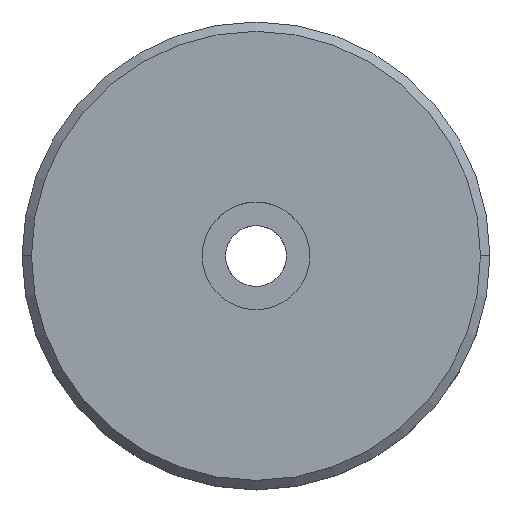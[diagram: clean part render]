
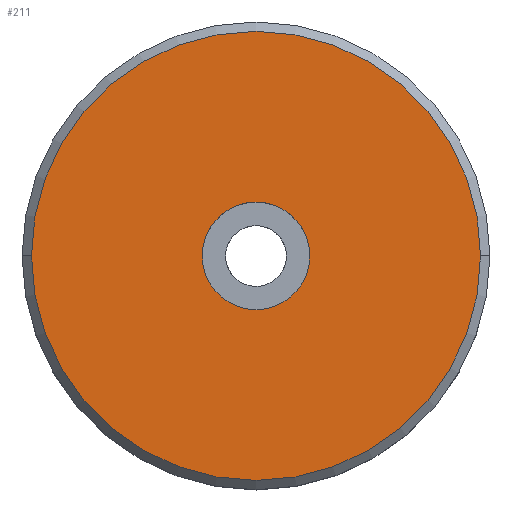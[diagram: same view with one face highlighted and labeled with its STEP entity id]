
A CAD part, top view. The second image highlights one B-rep face of the part: STEP entity #211.
In plain terms, the highlighted planar face has unit normal (0, 0, 1).
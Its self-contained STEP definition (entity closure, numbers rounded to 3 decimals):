
#63=CARTESIAN_POINT('Vertex',(-11.5,0.,30.)) ;
#77=CARTESIAN_POINT('Vertex',(11.5,0.,30.)) ;
#80=CARTESIAN_POINT('Axis2P3D Location',(0.,0.,30.)) ;
#102=CARTESIAN_POINT('Axis2P3D Location',(0.,0.,30.)) ;
#184=CARTESIAN_POINT('Axis2P3D Location',(0.,0.,30.)) ;
#189=CARTESIAN_POINT('Axis2P3D Location',(0.,0.,30.)) ;
#193=CARTESIAN_POINT('Vertex',(-48.,0.,30.)) ;
#195=CARTESIAN_POINT('Vertex',(48.,0.,30.)) ;
#198=CARTESIAN_POINT('Axis2P3D Location',(0.,0.,30.)) ;
#81=DIRECTION('Axis2P3D Direction',(0.,0.,1.)) ;
#103=DIRECTION('Axis2P3D Direction',(0.,0.,1.)) ;
#185=DIRECTION('Axis2P3D Direction',(0.,0.,1.)) ;
#186=DIRECTION('Axis2P3D XDirection',(1.,0.,0.)) ;
#190=DIRECTION('Axis2P3D Direction',(0.,0.,1.)) ;
#199=DIRECTION('Axis2P3D Direction',(0.,0.,1.)) ;
#82=AXIS2_PLACEMENT_3D('Circle Axis2P3D',#80,#81,$) ;
#104=AXIS2_PLACEMENT_3D('Circle Axis2P3D',#102,#103,$) ;
#187=AXIS2_PLACEMENT_3D('Plane Axis2P3D',#184,#185,#186) ;
#191=AXIS2_PLACEMENT_3D('Circle Axis2P3D',#189,#190,$) ;
#200=AXIS2_PLACEMENT_3D('Circle Axis2P3D',#198,#199,$) ;
#204=ORIENTED_EDGE('',*,*,#197,.T.) ;
#205=ORIENTED_EDGE('',*,*,#202,.T.) ;
#208=ORIENTED_EDGE('',*,*,#84,.F.) ;
#209=ORIENTED_EDGE('',*,*,#106,.F.) ;
#210=FACE_BOUND('',#207,.T.) ;
#211=ADVANCED_FACE('NONE',(#206,#210),#188,.T.) ;
#83=CIRCLE('generated circle',#82,11.5) ;
#105=CIRCLE('generated circle',#104,11.5) ;
#192=CIRCLE('generated circle',#191,48.) ;
#201=CIRCLE('generated circle',#200,48.) ;
#84=EDGE_CURVE('',#78,#64,#83,.T.) ;
#106=EDGE_CURVE('',#64,#78,#105,.T.) ;
#197=EDGE_CURVE('',#194,#196,#192,.T.) ;
#202=EDGE_CURVE('',#196,#194,#201,.T.) ;
#203=EDGE_LOOP('',(#204,#205)) ;
#207=EDGE_LOOP('',(#208,#209)) ;
#206=FACE_OUTER_BOUND('',#203,.T.) ;
#188=PLANE('Plane',#187) ;
#64=VERTEX_POINT('',#63) ;
#78=VERTEX_POINT('',#77) ;
#194=VERTEX_POINT('',#193) ;
#196=VERTEX_POINT('',#195) ;
